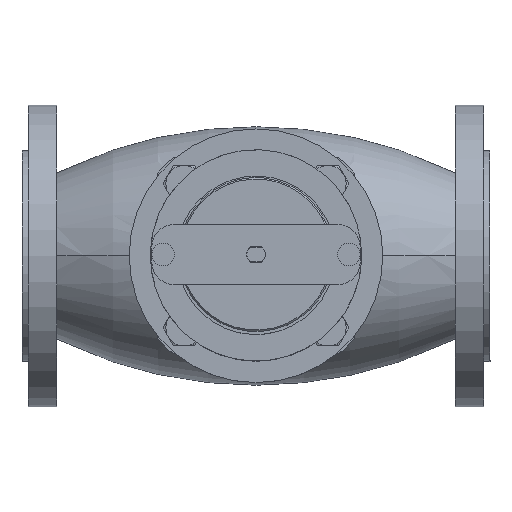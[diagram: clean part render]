
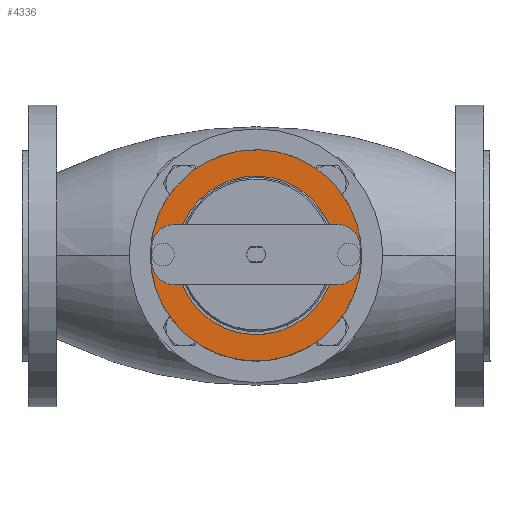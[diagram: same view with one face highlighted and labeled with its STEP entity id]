
A CAD part, top view. The second image highlights one B-rep face of the part: STEP entity #4336.
In plain terms, the highlighted planar face has unit normal (0, 0, 1).
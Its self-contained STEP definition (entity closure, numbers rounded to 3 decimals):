
#65 = DIRECTION ( 'NONE',  ( 0., 0., -1. ) ) ;
#288 = CIRCLE ( 'NONE', #7652, 7.5 ) ;
#504 = AXIS2_PLACEMENT_3D ( 'NONE', #4849, #9448, #8646 ) ;
#780 = EDGE_LOOP ( 'NONE', ( #5667, #3512 ) ) ;
#782 = AXIS2_PLACEMENT_3D ( 'NONE', #9476, #7435, #12285 ) ;
#816 = VERTEX_POINT ( 'NONE', #3182 ) ;
#875 = EDGE_CURVE ( 'NONE', #10544, #9187, #1346, .T. ) ;
#1053 = CARTESIAN_POINT ( 'NONE',  ( -43.172, 4.093, 146.08 ) ) ;
#1257 = CARTESIAN_POINT ( 'NONE',  ( 79.828, 11.593, 146.08 ) ) ;
#1311 = CARTESIAN_POINT ( 'NONE',  ( 18.328, 11.593, 146.08 ) ) ;
#1346 = CIRCLE ( 'NONE', #4917, 7.5 ) ;
#1481 = DIRECTION ( 'NONE',  ( 0., 0., 1. ) ) ;
#1756 = ORIENTED_EDGE ( 'NONE', *, *, #4003, .F. ) ;
#2712 = FACE_BOUND ( 'NONE', #7670, .T. ) ;
#2770 = CARTESIAN_POINT ( 'NONE',  ( 18.328, 11.593, 146.08 ) ) ;
#2885 = DIRECTION ( 'NONE',  ( 0., 0., 1. ) ) ;
#3169 = CIRCLE ( 'NONE', #782, 7.5 ) ;
#3182 = CARTESIAN_POINT ( 'NONE',  ( -1.763, -36.911, 146.08 ) ) ;
#3402 = CARTESIAN_POINT ( 'NONE',  ( -43.172, 11.593, 146.08 ) ) ;
#3472 = CIRCLE ( 'NONE', #10035, 70. ) ;
#3483 = EDGE_CURVE ( 'NONE', #816, #4973, #11181, .T. ) ;
#3512 = ORIENTED_EDGE ( 'NONE', *, *, #5461, .F. ) ;
#4003 = EDGE_CURVE ( 'NONE', #10241, #5549, #9210, .T. ) ;
#4135 = VERTEX_POINT ( 'NONE', #9813 ) ;
#4336 = ADVANCED_FACE ( 'NONE', ( #2712, #4632, #12230, #7507 ), #11286, .F. ) ;
#4573 = CIRCLE ( 'NONE', #7773, 52.5 ) ;
#4608 = ORIENTED_EDGE ( 'NONE', *, *, #3483, .F. ) ;
#4632 = FACE_OUTER_BOUND ( 'NONE', #780, .T. ) ;
#4849 = CARTESIAN_POINT ( 'NONE',  ( 18.328, 11.593, 146.08 ) ) ;
#4917 = AXIS2_PLACEMENT_3D ( 'NONE', #11709, #11523, #11647 ) ;
#4973 = VERTEX_POINT ( 'NONE', #5920 ) ;
#5057 = EDGE_CURVE ( 'NONE', #9187, #10544, #288, .T. ) ;
#5461 = EDGE_CURVE ( 'NONE', #4135, #10214, #3472, .T. ) ;
#5498 = EDGE_CURVE ( 'NONE', #10214, #4135, #10424, .T. ) ;
#5549 = VERTEX_POINT ( 'NONE', #1053 ) ;
#5667 = ORIENTED_EDGE ( 'NONE', *, *, #5498, .F. ) ;
#5719 = CARTESIAN_POINT ( 'NONE',  ( 18.328, 11.593, 146.08 ) ) ;
#5920 = CARTESIAN_POINT ( 'NONE',  ( 38.419, 60.096, 146.08 ) ) ;
#6079 = DIRECTION ( 'NONE',  ( 0., 1., 0. ) ) ;
#6672 = DIRECTION ( 'NONE',  ( 0., 1., 0. ) ) ;
#6828 = EDGE_LOOP ( 'NONE', ( #10653, #4608 ) ) ;
#7435 = DIRECTION ( 'NONE',  ( 0., 0., 1. ) ) ;
#7507 = FACE_BOUND ( 'NONE', #9275, .T. ) ;
#7652 = AXIS2_PLACEMENT_3D ( 'NONE', #1257, #7926, #9842 ) ;
#7670 = EDGE_LOOP ( 'NONE', ( #1756, #10715 ) ) ;
#7735 = CARTESIAN_POINT ( 'NONE',  ( 79.828, 4.093, 146.08 ) ) ;
#7773 = AXIS2_PLACEMENT_3D ( 'NONE', #11401, #2885, #6672 ) ;
#7926 = DIRECTION ( 'NONE',  ( 0., 0., -1. ) ) ;
#8483 = CARTESIAN_POINT ( 'NONE',  ( 79.828, 19.093, 146.08 ) ) ;
#8584 = DIRECTION ( 'NONE',  ( -1., 0., 0. ) ) ;
#8646 = DIRECTION ( 'NONE',  ( -1., 0., 0. ) ) ;
#8682 = CARTESIAN_POINT ( 'NONE',  ( -8.46, -53.079, 146.08 ) ) ;
#9187 = VERTEX_POINT ( 'NONE', #7735 ) ;
#9210 = CIRCLE ( 'NONE', #11798, 7.5 ) ;
#9217 = AXIS2_PLACEMENT_3D ( 'NONE', #2770, #9540, #11418 ) ;
#9275 = EDGE_LOOP ( 'NONE', ( #10605, #10527 ) ) ;
#9448 = DIRECTION ( 'NONE',  ( 0., 0., -1. ) ) ;
#9476 = CARTESIAN_POINT ( 'NONE',  ( -43.172, 11.593, 146.08 ) ) ;
#9540 = DIRECTION ( 'NONE',  ( 0., 0., -1. ) ) ;
#9813 = CARTESIAN_POINT ( 'NONE',  ( 45.116, 76.264, 146.08 ) ) ;
#9842 = DIRECTION ( 'NONE',  ( 0., 1., 0. ) ) ;
#10035 = AXIS2_PLACEMENT_3D ( 'NONE', #5719, #65, #8584 ) ;
#10214 = VERTEX_POINT ( 'NONE', #8682 ) ;
#10241 = VERTEX_POINT ( 'NONE', #10786 ) ;
#10424 = CIRCLE ( 'NONE', #504, 70. ) ;
#10527 = ORIENTED_EDGE ( 'NONE', *, *, #5057, .T. ) ;
#10544 = VERTEX_POINT ( 'NONE', #8483 ) ;
#10588 = AXIS2_PLACEMENT_3D ( 'NONE', #1311, #11699, #10814 ) ;
#10605 = ORIENTED_EDGE ( 'NONE', *, *, #875, .T. ) ;
#10653 = ORIENTED_EDGE ( 'NONE', *, *, #12055, .F. ) ;
#10715 = ORIENTED_EDGE ( 'NONE', *, *, #11389, .F. ) ;
#10786 = CARTESIAN_POINT ( 'NONE',  ( -43.172, 19.093, 146.08 ) ) ;
#10814 = DIRECTION ( 'NONE',  ( 0., 1., 0. ) ) ;
#11181 = CIRCLE ( 'NONE', #10588, 52.5 ) ;
#11286 = PLANE ( 'NONE',  #9217 ) ;
#11389 = EDGE_CURVE ( 'NONE', #5549, #10241, #3169, .T. ) ;
#11401 = CARTESIAN_POINT ( 'NONE',  ( 18.328, 11.593, 146.08 ) ) ;
#11418 = DIRECTION ( 'NONE',  ( -1., 0., 0. ) ) ;
#11523 = DIRECTION ( 'NONE',  ( 0., 0., -1. ) ) ;
#11647 = DIRECTION ( 'NONE',  ( 0., 1., 0. ) ) ;
#11699 = DIRECTION ( 'NONE',  ( 0., 0., 1. ) ) ;
#11709 = CARTESIAN_POINT ( 'NONE',  ( 79.828, 11.593, 146.08 ) ) ;
#11798 = AXIS2_PLACEMENT_3D ( 'NONE', #3402, #1481, #6079 ) ;
#12055 = EDGE_CURVE ( 'NONE', #4973, #816, #4573, .T. ) ;
#12230 = FACE_BOUND ( 'NONE', #6828, .T. ) ;
#12285 = DIRECTION ( 'NONE',  ( 0., 1., 0. ) ) ;
